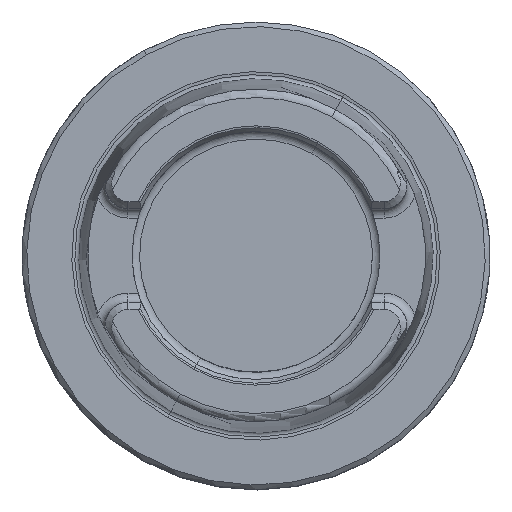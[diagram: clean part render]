
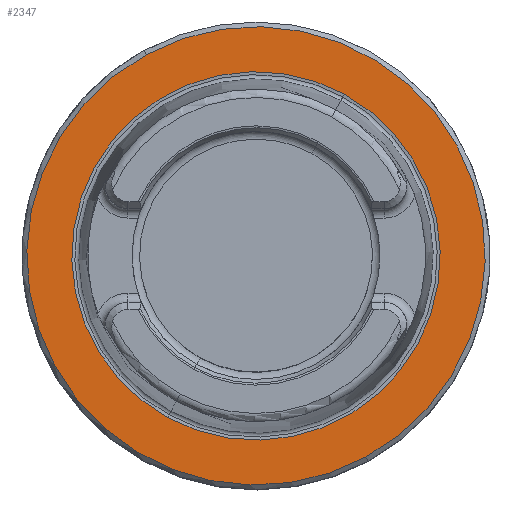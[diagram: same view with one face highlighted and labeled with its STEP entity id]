
A CAD part, top view. The second image highlights one B-rep face of the part: STEP entity #2347.
In plain terms, the highlighted planar face has unit normal (0, 0, 1).
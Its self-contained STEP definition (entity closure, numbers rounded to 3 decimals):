
#2284=AXIS2_PLACEMENT_3D('Circle Axis2P3D',#2282,#2283,$) ;
#2310=AXIS2_PLACEMENT_3D('Circle Axis2P3D',#2308,#2309,$) ;
#2323=AXIS2_PLACEMENT_3D('Plane Axis2P3D',#2320,#2321,#2322) ;
#2327=AXIS2_PLACEMENT_3D('Circle Axis2P3D',#2325,#2326,$) ;
#2336=AXIS2_PLACEMENT_3D('Circle Axis2P3D',#2334,#2335,$) ;
#2282=CARTESIAN_POINT('Axis2P3D Location',(0.,0.,0.)) ;
#2286=CARTESIAN_POINT('Vertex',(18.88,34.56,0.)) ;
#2288=CARTESIAN_POINT('Vertex',(-18.88,-34.56,0.)) ;
#2308=CARTESIAN_POINT('Axis2P3D Location',(0.,0.,0.)) ;
#2320=CARTESIAN_POINT('Axis2P3D Location',(0.,-38.285,0.)) ;
#2325=CARTESIAN_POINT('Axis2P3D Location',(0.,0.,0.)) ;
#2329=CARTESIAN_POINT('Vertex',(23.492,-43.002,0.)) ;
#2331=CARTESIAN_POINT('Vertex',(-23.492,43.002,0.)) ;
#2334=CARTESIAN_POINT('Axis2P3D Location',(0.,0.,0.)) ;
#2283=DIRECTION('Axis2P3D Direction',(0.,0.,1.)) ;
#2309=DIRECTION('Axis2P3D Direction',(0.,0.,1.)) ;
#2321=DIRECTION('Axis2P3D Direction',(0.,0.,-1.)) ;
#2322=DIRECTION('Axis2P3D XDirection',(-1.,0.,0.)) ;
#2326=DIRECTION('Axis2P3D Direction',(0.,0.,-1.)) ;
#2335=DIRECTION('Axis2P3D Direction',(0.,0.,-1.)) ;
#2340=ORIENTED_EDGE('',*,*,#2333,.F.) ;
#2341=ORIENTED_EDGE('',*,*,#2338,.F.) ;
#2344=ORIENTED_EDGE('',*,*,#2290,.T.) ;
#2345=ORIENTED_EDGE('',*,*,#2312,.T.) ;
#2346=FACE_BOUND('',#2343,.T.) ;
#2347=ADVANCED_FACE('NO_CUT',(#2342,#2346),#2324,.F.) ;
#2285=CIRCLE('generated circle',#2284,39.381) ;
#2311=CIRCLE('generated circle',#2310,39.381) ;
#2328=CIRCLE('generated circle',#2327,49.) ;
#2337=CIRCLE('generated circle',#2336,49.) ;
#2290=EDGE_CURVE('',#2287,#2289,#2285,.F.) ;
#2312=EDGE_CURVE('',#2289,#2287,#2311,.F.) ;
#2333=EDGE_CURVE('',#2330,#2332,#2328,.T.) ;
#2338=EDGE_CURVE('',#2332,#2330,#2337,.T.) ;
#2339=EDGE_LOOP('',(#2340,#2341)) ;
#2343=EDGE_LOOP('',(#2344,#2345)) ;
#2342=FACE_OUTER_BOUND('',#2339,.T.) ;
#2324=PLANE('',#2323) ;
#2287=VERTEX_POINT('',#2286) ;
#2289=VERTEX_POINT('',#2288) ;
#2330=VERTEX_POINT('',#2329) ;
#2332=VERTEX_POINT('',#2331) ;
